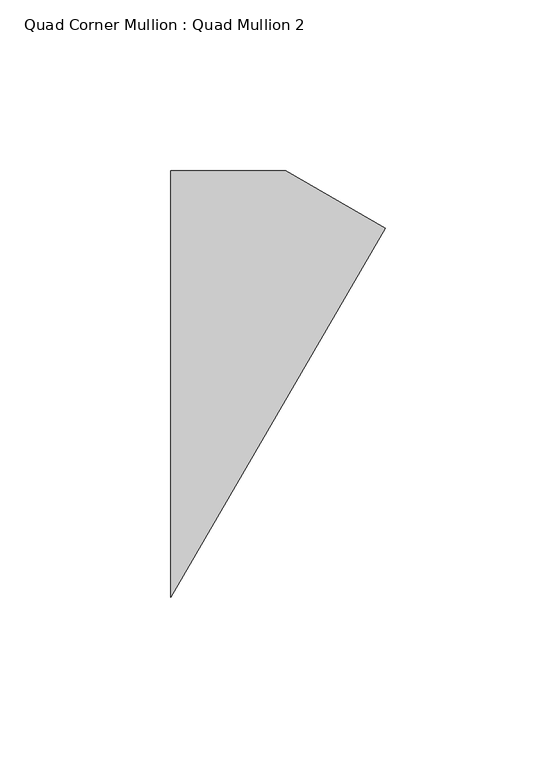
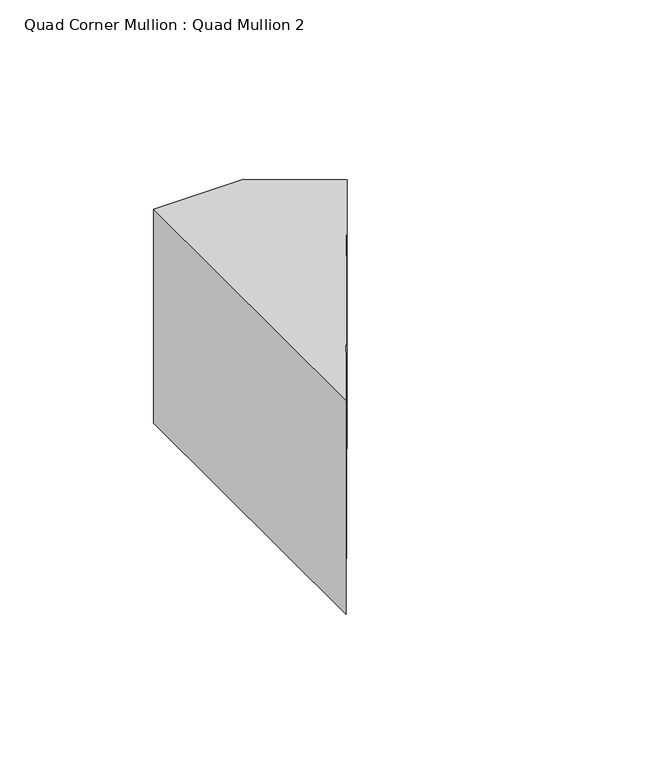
"""IFC4 building model written with IfcOpenShell, lengths in millimetres: member geometry, Quad Corner Mullion : Quad Mullion 2."""

from ifc_helpers import new_model, si_unit, frame, origin, place, context, project, spatial, polyline, outline, extrude, source, transform, mapped, element, save


def quad_corner_mullion_quad_mullion_2_f16a923f(model_context):
    return source(origin(), model_context, "Body", "SweptSolid", [
        extrude(outline(polyline([(45.9759722, 45.5661659), (-16.8468245, -62.5), (-16.8468245, 62.5), (16.8468245, 62.5), (45.9759722, 45.5661659)])), frame((0.0, 0.0, -84.9658098), z_axis=(0.0, 0.0, 1.0), x_axis=(1.0, 0.0, 0.0)), (0.0, 0.0, 1.0), 84.9658098),
    ])


if __name__ == "__main__":
    model = new_model("IFC4")
    model_context = context("Model", 3, world=origin())
    ifc_project = project(units=[si_unit("LENGTHUNIT", "METRE", prefix="MILLI")], contexts=[model_context])
    site = spatial("IfcSite", under=ifc_project)
    building = spatial("IfcBuilding", under=site)
    placement = place(None, origin())
    quad_corner_mullion_quad_mullion_2_shape = quad_corner_mullion_quad_mullion_2_f16a923f(model_context)
    element("IfcMember", 1, ObjectType="Quad Corner Mullion : Quad Mullion 2", at=placement, inside=building, context=model_context, shape_type="MappedRepresentation", body=[
        mapped(quad_corner_mullion_quad_mullion_2_shape, transform((0.0, 0.0, 0.0), x_axis=(1.0, 0.0, 0.0), y_axis=(0.0, 1.0, 0.0), z_axis=(0.0, 0.0, 1.0))),
    ])
    save(model, "model.ifc")
